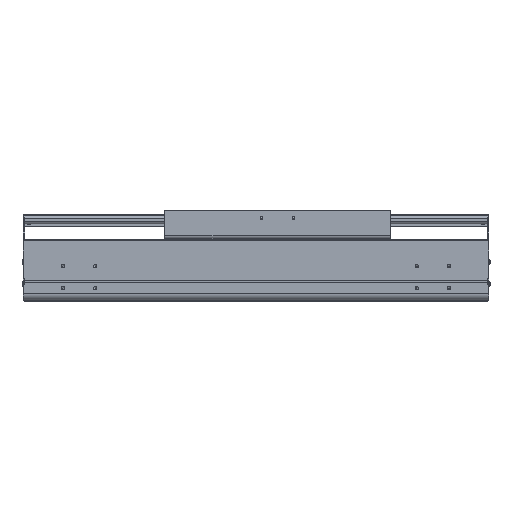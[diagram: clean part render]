
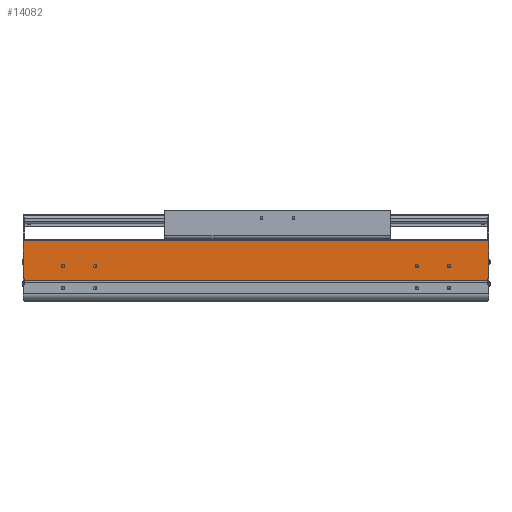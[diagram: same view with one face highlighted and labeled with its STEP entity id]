
A CAD part, top view. The second image highlights one B-rep face of the part: STEP entity #14082.
In plain terms, the highlighted planar face has unit normal (0, 0, 1).
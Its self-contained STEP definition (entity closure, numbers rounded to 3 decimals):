
#1786=DIRECTION('',(0.,-1.,0.));
#1787=VECTOR('',#1786,2.55);
#1788=CARTESIAN_POINT('',(0.,34.65,107.));
#1789=LINE('',#1788,#1787);
#2269=DIRECTION('',(1.,0.,0.));
#2270=VECTOR('',#2269,2.);
#2271=CARTESIAN_POINT('',(-721.,34.65,107.));
#2272=LINE('',#2271,#2270);
#2273=CARTESIAN_POINT('',(-59.5,54.,107.));
#2274=DIRECTION('',(0.,0.,-1.));
#2275=DIRECTION('',(1.,0.,0.));
#2276=AXIS2_PLACEMENT_3D('',#2273,#2274,#2275);
#2278=CARTESIAN_POINT('',(-59.5,54.,107.));
#2279=DIRECTION('',(0.,0.,-1.));
#2280=DIRECTION('',(-1.,0.,0.));
#2281=AXIS2_PLACEMENT_3D('',#2278,#2279,#2280);
#2283=CARTESIAN_POINT('',(-109.5,54.,107.));
#2284=DIRECTION('',(0.,0.,-1.));
#2285=DIRECTION('',(1.,0.,0.));
#2286=AXIS2_PLACEMENT_3D('',#2283,#2284,#2285);
#2288=CARTESIAN_POINT('',(-109.5,54.,107.));
#2289=DIRECTION('',(0.,0.,-1.));
#2290=DIRECTION('',(-1.,0.,0.));
#2291=AXIS2_PLACEMENT_3D('',#2288,#2289,#2290);
#2293=CARTESIAN_POINT('',(-659.5,54.,107.));
#2294=DIRECTION('',(0.,0.,-1.));
#2295=DIRECTION('',(1.,0.,0.));
#2296=AXIS2_PLACEMENT_3D('',#2293,#2294,#2295);
#2298=CARTESIAN_POINT('',(-659.5,54.,107.));
#2299=DIRECTION('',(0.,0.,-1.));
#2300=DIRECTION('',(-1.,0.,0.));
#2301=AXIS2_PLACEMENT_3D('',#2298,#2299,#2300);
#2303=CARTESIAN_POINT('',(-609.5,54.,107.));
#2304=DIRECTION('',(0.,0.,-1.));
#2305=DIRECTION('',(1.,0.,0.));
#2306=AXIS2_PLACEMENT_3D('',#2303,#2304,#2305);
#2308=CARTESIAN_POINT('',(-609.5,54.,107.));
#2309=DIRECTION('',(0.,0.,-1.));
#2310=DIRECTION('',(-1.,0.,0.));
#2311=AXIS2_PLACEMENT_3D('',#2308,#2309,#2310);
#2313=DIRECTION('',(0.,-1.,0.));
#2314=VECTOR('',#2313,2.55);
#2315=CARTESIAN_POINT('',(-719.,34.65,107.));
#2316=LINE('',#2315,#2314);
#2317=DIRECTION('',(0.,-1.,0.));
#2318=VECTOR('',#2317,58.85);
#2319=CARTESIAN_POINT('',(-721.,93.5,107.));
#2320=LINE('',#2319,#2318);
#2321=DIRECTION('',(0.,1.,0.));
#2322=VECTOR('',#2321,58.85);
#2323=CARTESIAN_POINT('',(2.,34.65,107.));
#2324=LINE('',#2323,#2322);
#2325=DIRECTION('',(1.,0.,0.));
#2326=VECTOR('',#2325,719.);
#2327=CARTESIAN_POINT('',(-719.,32.1,107.));
#2328=LINE('',#2327,#2326);
#2433=DIRECTION('',(-1.,0.,0.));
#2434=VECTOR('',#2433,723.);
#2435=CARTESIAN_POINT('',(2.,93.5,107.));
#2436=LINE('',#2435,#2434);
#7491=DIRECTION('',(1.,0.,0.));
#7492=VECTOR('',#7491,2.);
#7493=CARTESIAN_POINT('',(0.,34.65,107.));
#7494=LINE('',#7493,#7492);
#8701=CARTESIAN_POINT('',(-721.,34.65,107.));
#8702=VERTEX_POINT('',#8701);
#8703=CARTESIAN_POINT('',(-721.,93.5,107.));
#8704=VERTEX_POINT('',#8703);
#8933=CARTESIAN_POINT('',(-719.,32.1,107.));
#8934=VERTEX_POINT('',#8933);
#9177=CARTESIAN_POINT('',(0.,32.1,107.));
#9178=VERTEX_POINT('',#9177);
#9179=CARTESIAN_POINT('',(-57.,54.,107.));
#9180=CARTESIAN_POINT('',(-62.,54.,107.));
#9181=VERTEX_POINT('',#9179);
#9182=VERTEX_POINT('',#9180);
#9183=CARTESIAN_POINT('',(-107.,54.,107.));
#9184=CARTESIAN_POINT('',(-112.,54.,107.));
#9185=VERTEX_POINT('',#9183);
#9186=VERTEX_POINT('',#9184);
#9187=CARTESIAN_POINT('',(-657.,54.,107.));
#9188=CARTESIAN_POINT('',(-662.,54.,107.));
#9189=VERTEX_POINT('',#9187);
#9190=VERTEX_POINT('',#9188);
#9191=CARTESIAN_POINT('',(-607.,54.,107.));
#9192=CARTESIAN_POINT('',(-612.,54.,107.));
#9193=VERTEX_POINT('',#9191);
#9194=VERTEX_POINT('',#9192);
#9974=CARTESIAN_POINT('',(2.,34.65,107.));
#9975=VERTEX_POINT('',#9974);
#9976=CARTESIAN_POINT('',(2.,93.5,107.));
#9977=VERTEX_POINT('',#9976);
#10428=CARTESIAN_POINT('',(0.,34.65,107.));
#10429=VERTEX_POINT('',#10428);
#10508=CARTESIAN_POINT('',(-719.,34.65,107.));
#10509=VERTEX_POINT('',#10508);
#14040=CARTESIAN_POINT('',(-359.5,62.8,107.));
#14041=DIRECTION('',(0.,0.,1.));
#14042=DIRECTION('',(0.,-1.,0.));
#14043=AXIS2_PLACEMENT_3D('',#14040,#14041,#14042);
#14044=PLANE('',#14043);
#14045=ORIENTED_EDGE('',*,*,#11526,.F.);
#14046=ORIENTED_EDGE('',*,*,#14035,.F.);
#14047=ORIENTED_EDGE('',*,*,#12155,.F.);
#14049=ORIENTED_EDGE('',*,*,#14048,.F.);
#14050=ORIENTED_EDGE('',*,*,#11263,.F.);
#14052=ORIENTED_EDGE('',*,*,#14051,.F.);
#14053=ORIENTED_EDGE('',*,*,#13643,.T.);
#14055=ORIENTED_EDGE('',*,*,#14054,.F.);
#14056=EDGE_LOOP('',(#14045,#14046,#14047,#14049,#14050,#14052,#14053,#14055));
#14057=FACE_OUTER_BOUND('',#14056,.F.);
#14059=ORIENTED_EDGE('',*,*,#14058,.F.);
#14061=ORIENTED_EDGE('',*,*,#14060,.F.);
#14062=EDGE_LOOP('',(#14059,#14061));
#14063=FACE_BOUND('',#14062,.F.);
#14065=ORIENTED_EDGE('',*,*,#14064,.F.);
#14067=ORIENTED_EDGE('',*,*,#14066,.F.);
#14068=EDGE_LOOP('',(#14065,#14067));
#14069=FACE_BOUND('',#14068,.F.);
#14071=ORIENTED_EDGE('',*,*,#14070,.F.);
#14073=ORIENTED_EDGE('',*,*,#14072,.F.);
#14074=EDGE_LOOP('',(#14071,#14073));
#14075=FACE_BOUND('',#14074,.F.);
#14077=ORIENTED_EDGE('',*,*,#14076,.F.);
#14079=ORIENTED_EDGE('',*,*,#14078,.F.);
#14080=EDGE_LOOP('',(#14077,#14079));
#14081=FACE_BOUND('',#14080,.F.);
#14082=ADVANCED_FACE('',(#14057,#14063,#14069,#14075,#14081),#14044,.T.);
#2277=CIRCLE('',#2276,2.5);
#2282=CIRCLE('',#2281,2.5);
#2287=CIRCLE('',#2286,2.5);
#2292=CIRCLE('',#2291,2.5);
#2297=CIRCLE('',#2296,2.5);
#2302=CIRCLE('',#2301,2.5);
#2307=CIRCLE('',#2306,2.5);
#2312=CIRCLE('',#2311,2.5);
#11263=EDGE_CURVE('',#9975,#9977,#2324,.T.);
#11526=EDGE_CURVE('',#10509,#8934,#2316,.T.);
#12155=EDGE_CURVE('',#8704,#8702,#2320,.T.);
#13643=EDGE_CURVE('',#10429,#9178,#1789,.T.);
#14035=EDGE_CURVE('',#8702,#10509,#2272,.T.);
#14048=EDGE_CURVE('',#9977,#8704,#2436,.T.);
#14051=EDGE_CURVE('',#10429,#9975,#7494,.T.);
#14054=EDGE_CURVE('',#8934,#9178,#2328,.T.);
#14058=EDGE_CURVE('',#9185,#9186,#2287,.T.);
#14060=EDGE_CURVE('',#9186,#9185,#2292,.T.);
#14064=EDGE_CURVE('',#9189,#9190,#2297,.T.);
#14066=EDGE_CURVE('',#9190,#9189,#2302,.T.);
#14070=EDGE_CURVE('',#9193,#9194,#2307,.T.);
#14072=EDGE_CURVE('',#9194,#9193,#2312,.T.);
#14076=EDGE_CURVE('',#9181,#9182,#2277,.T.);
#14078=EDGE_CURVE('',#9182,#9181,#2282,.T.);
